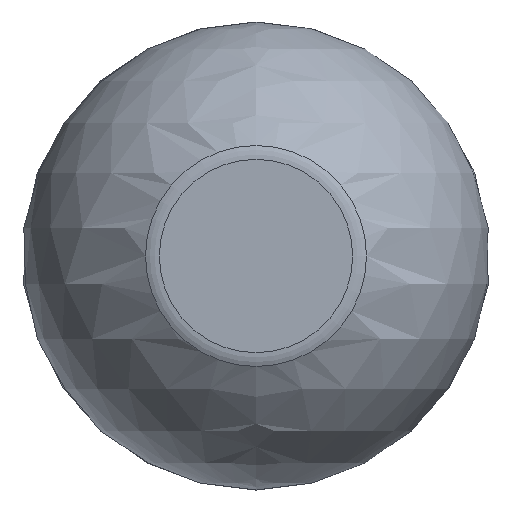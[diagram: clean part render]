
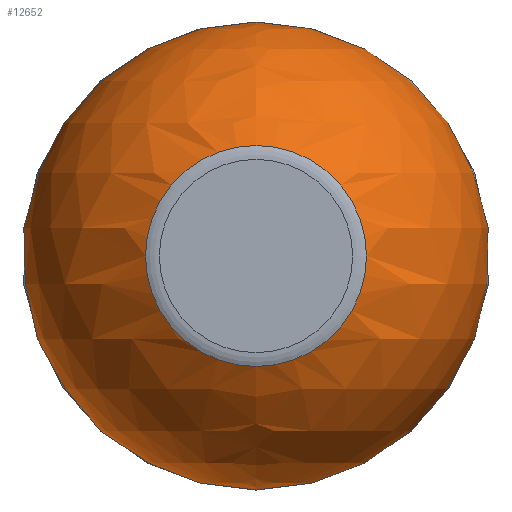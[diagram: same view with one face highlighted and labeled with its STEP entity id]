
A CAD part, left-side view. The second image highlights one B-rep face of the part: STEP entity #12652.
In plain terms, the highlighted spherical face has radius 6.09 mm.
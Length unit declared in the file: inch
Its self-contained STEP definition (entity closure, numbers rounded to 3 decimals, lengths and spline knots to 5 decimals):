
#3329=FACE_BOUND('',#4141,.T.);
#3406=SPHERICAL_SURFACE('',#13467,0.23975);
#3410=FACE_OUTER_BOUND('',#4140,.T.);
#4140=EDGE_LOOP('',(#8737,#8738,#8739,#8740,#8741,#8742));
#4141=EDGE_LOOP('',(#8743));
#4946=CIRCLE('',#13463,0.11325);
#4947=CIRCLE('',#13464,0.11325);
#4950=CIRCLE('',#13468,0.23975);
#4951=CIRCLE('',#13469,0.23975);
#4952=CIRCLE('',#13470,0.13232);
#5471=VERTEX_POINT('',#17839);
#5472=VERTEX_POINT('',#17840);
#5474=VERTEX_POINT('',#17847);
#5475=VERTEX_POINT('',#17849);
#5476=VERTEX_POINT('',#17851);
#6778=EDGE_CURVE('',#5471,#5472,#4946,.T.);
#6779=EDGE_CURVE('',#5472,#5471,#4947,.T.);
#6782=EDGE_CURVE('',#5474,#5471,#4950,.T.);
#6783=EDGE_CURVE('',#5472,#5475,#4951,.T.);
#6784=EDGE_CURVE('',#5476,#5476,#4952,.T.);
#8737=ORIENTED_EDGE('',*,*,#6778,.F.);
#8738=ORIENTED_EDGE('',*,*,#6782,.F.);
#8739=ORIENTED_EDGE('',*,*,#6782,.T.);
#8740=ORIENTED_EDGE('',*,*,#6779,.F.);
#8741=ORIENTED_EDGE('',*,*,#6783,.T.);
#8742=ORIENTED_EDGE('',*,*,#6783,.F.);
#8743=ORIENTED_EDGE('',*,*,#6784,.F.);
#12652=ADVANCED_FACE('',(#3410,#3329),#3406,.T.);
#13463=AXIS2_PLACEMENT_3D('',#17841,#14561,#14562);
#13464=AXIS2_PLACEMENT_3D('',#17842,#14563,#14564);
#13467=AXIS2_PLACEMENT_3D('',#17846,#14569,#14570);
#13468=AXIS2_PLACEMENT_3D('',#17848,#14571,#14572);
#13469=AXIS2_PLACEMENT_3D('',#17850,#14573,#14574);
#13470=AXIS2_PLACEMENT_3D('',#17852,#14575,#14576);
#14561=DIRECTION('center_axis',(-1.,0.,0.));
#14562=DIRECTION('ref_axis',(0.,-1.,0.));
#14563=DIRECTION('center_axis',(-1.,0.,0.));
#14564=DIRECTION('ref_axis',(0.,-1.,0.));
#14569=DIRECTION('center_axis',(0.,0.,1.));
#14570=DIRECTION('ref_axis',(1.,0.,0.));
#14571=DIRECTION('center_axis',(0.,-1.,0.));
#14572=DIRECTION('ref_axis',(-1.,0.,0.));
#14573=DIRECTION('center_axis',(0.,-1.,0.));
#14574=DIRECTION('ref_axis',(-1.,0.,0.));
#14575=DIRECTION('center_axis',(1.,0.,0.));
#14576=DIRECTION('ref_axis',(0.,0.,-1.));
#17839=CARTESIAN_POINT('',(-0.21132,0.,0.11325));
#17840=CARTESIAN_POINT('',(-0.21132,0.,-0.11325));
#17841=CARTESIAN_POINT('Origin',(-0.21132,0.,0.));
#17842=CARTESIAN_POINT('Origin',(-0.21132,0.,0.));
#17846=CARTESIAN_POINT('Origin',(0.,0.,0.));
#17847=CARTESIAN_POINT('',(0.,0.,0.23975));
#17848=CARTESIAN_POINT('Origin',(0.,0.,0.));
#17849=CARTESIAN_POINT('',(0.,0.,-0.23975));
#17850=CARTESIAN_POINT('Origin',(0.,0.,0.));
#17851=CARTESIAN_POINT('',(0.19993,0.13232,0.));
#17852=CARTESIAN_POINT('Origin',(0.19993,0.,0.));
